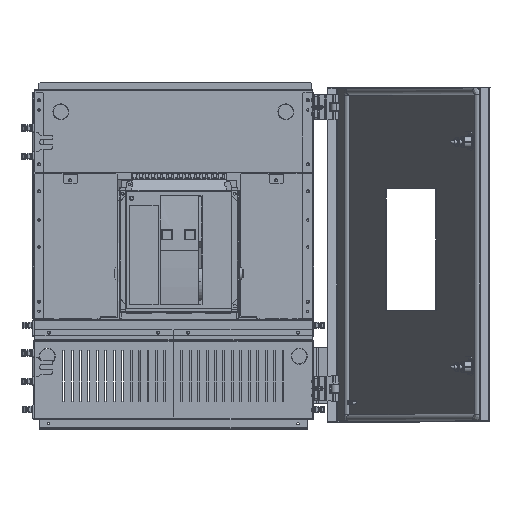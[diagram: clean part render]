
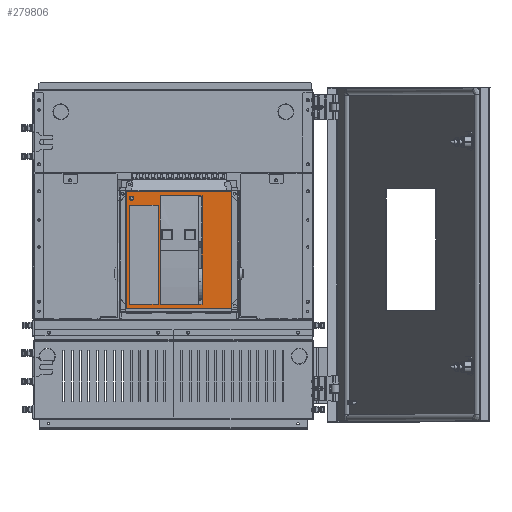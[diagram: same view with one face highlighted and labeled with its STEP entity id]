
A CAD part, top view. The second image highlights one B-rep face of the part: STEP entity #279806.
In plain terms, the highlighted planar face has unit normal (0, 0, 1).
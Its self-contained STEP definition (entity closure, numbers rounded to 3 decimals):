
#276861=CARTESIAN_POINT(' ',(139.5,209.005,-6.56));
#276862=VERTEX_POINT(' ',#276861);
#276936=CARTESIAN_POINT(' ',(139.5,15.505,-6.56));
#276937=VERTEX_POINT(' ',#276936);
#276951=CARTESIAN_POINT(' ',(139.5,15.505,-6.56));
#276956=DIRECTION(' ',(0.,1.,0.));
#276961=VECTOR(' ',#276956,1.);
#276966=LINE('',#276951,#276961);
#276971=CARTESIAN_POINT(' ',(139.5,16.529,-6.56));
#276972=VERTEX_POINT(' ',#276971);
#276976=EDGE_CURVE(' ',#276937,#276972,#276966,.T.);
#277061=CARTESIAN_POINT(' ',(71.9,209.005,-6.56));
#277066=DIRECTION(' ',(1.,0.,0.));
#277071=VECTOR(' ',#277066,1.);
#277076=LINE('',#277061,#277071);
#277081=CARTESIAN_POINT(' ',(71.9,209.005,-6.56));
#277082=VERTEX_POINT(' ',#277081);
#277086=EDGE_CURVE(' ',#277082,#276862,#277076,.T.);
#277181=CARTESIAN_POINT(' ',(71.9,15.505,-6.56));
#277186=DIRECTION(' ',(0.,1.,0.));
#277191=VECTOR(' ',#277186,1.);
#277196=LINE('',#277181,#277191);
#277201=CARTESIAN_POINT(' ',(71.9,15.505,-6.56));
#277202=VERTEX_POINT(' ',#277201);
#277206=EDGE_CURVE(' ',#277202,#277082,#277196,.T.);
#278276=CARTESIAN_POINT(' ',(139.5,15.505,-6.56));
#278281=DIRECTION(' ',(-1.,0.,0.));
#278286=VECTOR(' ',#278281,1.);
#278291=LINE('',#278276,#278286);
#278296=EDGE_CURVE(' ',#276937,#277202,#278291,.T.);
#279226=CARTESIAN_POINT(' ',(146.5,209.005,-6.56));
#279227=VERTEX_POINT(' ',#279226);
#279241=CARTESIAN_POINT(' ',(139.5,209.005,-6.56));
#279246=DIRECTION(' ',(1.,0.,0.));
#279251=VECTOR(' ',#279246,1.);
#279256=LINE('',#279241,#279251);
#279261=EDGE_CURVE(' ',#276862,#279227,#279256,.T.);
#279291=DIRECTION(' ',(0.,0.,1.));
#279296=CARTESIAN_POINT(' ',(11.619,8.623,-6.56));
#279301=DIRECTION(' ',(1.,0.,-0.));
#279306=AXIS2_PLACEMENT_3D(' ',#279296,#279291,#279301);
#279311=PLANE('NONE',#279306);
#279316=CARTESIAN_POINT(' ',(198.381,8.623,-6.56));
#279321=DIRECTION(' ',(0.,1.,0.));
#279326=VECTOR(' ',#279321,1.);
#279331=LINE('',#279316,#279326);
#279336=CARTESIAN_POINT(' ',(198.381,8.623,-6.56));
#279337=VERTEX_POINT(' ',#279336);
#279341=CARTESIAN_POINT(' ',(198.381,217.386,-6.56));
#279342=VERTEX_POINT(' ',#279341);
#279346=EDGE_CURVE(' ',#279337,#279342,#279331,.T.);
#279351=ORIENTED_EDGE(' ',*,*,#279346,.T.);
#279356=CARTESIAN_POINT(' ',(198.381,217.386,-6.56));
#279361=DIRECTION(' ',(-1.,0.,0.));
#279366=VECTOR(' ',#279361,1.);
#279371=LINE('',#279356,#279366);
#279376=CARTESIAN_POINT(' ',(11.619,217.386,-6.56));
#279377=VERTEX_POINT(' ',#279376);
#279381=EDGE_CURVE(' ',#279342,#279377,#279371,.T.);
#279386=ORIENTED_EDGE(' ',*,*,#279381,.T.);
#279391=CARTESIAN_POINT(' ',(11.619,217.386,-6.56));
#279396=DIRECTION(' ',(0.,-1.,0.));
#279401=VECTOR(' ',#279396,1.);
#279406=LINE('',#279391,#279401);
#279411=CARTESIAN_POINT(' ',(11.619,8.623,-6.56));
#279412=VERTEX_POINT(' ',#279411);
#279416=EDGE_CURVE(' ',#279377,#279412,#279406,.T.);
#279421=ORIENTED_EDGE(' ',*,*,#279416,.T.);
#279426=CARTESIAN_POINT(' ',(11.619,8.623,-6.56));
#279431=DIRECTION(' ',(1.,0.,0.));
#279436=VECTOR(' ',#279431,1.);
#279441=LINE('',#279426,#279436);
#279446=EDGE_CURVE(' ',#279412,#279337,#279441,.T.);
#279451=ORIENTED_EDGE(' ',*,*,#279446,.T.);
#279456=EDGE_LOOP(' ',(#279351,#279386,#279421,#279451));
#279461=FACE_OUTER_BOUND(' ',#279456,.T.);
#279466=ORIENTED_EDGE(' ',*,*,#279261,.T.);
#279471=CARTESIAN_POINT(' ',(146.5,209.005,-6.56));
#279476=DIRECTION(' ',(0.,-1.,0.));
#279481=VECTOR(' ',#279476,1.);
#279486=LINE('',#279471,#279481);
#279491=CARTESIAN_POINT(' ',(146.5,16.529,-6.56));
#279492=VERTEX_POINT(' ',#279491);
#279496=EDGE_CURVE(' ',#279227,#279492,#279486,.T.);
#279501=ORIENTED_EDGE(' ',*,*,#279496,.T.);
#279506=CARTESIAN_POINT(' ',(146.5,16.529,-6.56));
#279511=DIRECTION(' ',(-1.,0.,0.));
#279516=VECTOR(' ',#279511,1.);
#279521=LINE('',#279506,#279516);
#279526=EDGE_CURVE(' ',#279492,#276972,#279521,.T.);
#279531=ORIENTED_EDGE(' ',*,*,#279526,.T.);
#279536=ORIENTED_EDGE(' ',*,*,#276976,.F.);
#279541=ORIENTED_EDGE(' ',*,*,#278296,.T.);
#279546=ORIENTED_EDGE(' ',*,*,#277206,.T.);
#279551=ORIENTED_EDGE(' ',*,*,#277086,.T.);
#279556=EDGE_LOOP(' ',(#279466,#279501,#279531,#279536,#279541,#279546,#279551));
#279561=FACE_BOUND(' ',#279556,.T.);
#279566=CARTESIAN_POINT(' ',(68.5,16.505,-6.56));
#279571=DIRECTION(' ',(-1.,0.,0.));
#279576=VECTOR(' ',#279571,1.);
#279581=LINE('',#279566,#279576);
#279586=CARTESIAN_POINT(' ',(68.5,16.505,-6.56));
#279587=VERTEX_POINT(' ',#279586);
#279591=CARTESIAN_POINT(' ',(17.5,16.505,-6.56));
#279592=VERTEX_POINT(' ',#279591);
#279596=EDGE_CURVE(' ',#279587,#279592,#279581,.T.);
#279601=ORIENTED_EDGE(' ',*,*,#279596,.T.);
#279606=CARTESIAN_POINT(' ',(17.5,16.505,-6.56));
#279611=DIRECTION(' ',(0.,1.,0.));
#279616=VECTOR(' ',#279611,1.);
#279621=LINE('',#279606,#279616);
#279626=CARTESIAN_POINT(' ',(17.5,192.505,-6.56));
#279627=VERTEX_POINT(' ',#279626);
#279631=EDGE_CURVE(' ',#279592,#279627,#279621,.T.);
#279636=ORIENTED_EDGE(' ',*,*,#279631,.T.);
#279641=CARTESIAN_POINT(' ',(17.5,192.505,-6.56));
#279646=DIRECTION(' ',(1.,0.,0.));
#279651=VECTOR(' ',#279646,1.);
#279656=LINE('',#279641,#279651);
#279661=CARTESIAN_POINT(' ',(68.5,192.505,-6.56));
#279662=VERTEX_POINT(' ',#279661);
#279666=EDGE_CURVE(' ',#279627,#279662,#279656,.T.);
#279671=ORIENTED_EDGE(' ',*,*,#279666,.T.);
#279676=CARTESIAN_POINT(' ',(68.5,192.505,-6.56));
#279681=DIRECTION(' ',(0.,-1.,0.));
#279686=VECTOR(' ',#279681,1.);
#279691=LINE('',#279676,#279686);
#279696=EDGE_CURVE(' ',#279662,#279587,#279691,.T.);
#279701=ORIENTED_EDGE(' ',*,*,#279696,.T.);
#279706=EDGE_LOOP(' ',(#279601,#279636,#279671,#279701));
#279711=FACE_BOUND(' ',#279706,.T.);
#279716=CARTESIAN_POINT(' ',(21.3,204.505,-6.56));
#279721=DIRECTION(' ',(0.,0.,-1.));
#279726=DIRECTION(' ',(1.,0.,0.));
#279731=AXIS2_PLACEMENT_3D(' ',#279716,#279721,#279726);
#279736=CIRCLE('',#279731,3.873);
#279741=CARTESIAN_POINT(' ',(25.173,204.505,-6.56));
#279742=VERTEX_POINT(' ',#279741);
#279746=CARTESIAN_POINT(' ',(17.427,204.505,-6.56));
#279747=VERTEX_POINT(' ',#279746);
#279751=EDGE_CURVE(' ',#279742,#279747,#279736,.T.);
#279756=ORIENTED_EDGE(' ',*,*,#279751,.T.);
#279761=CARTESIAN_POINT(' ',(21.3,204.505,-6.56));
#279766=DIRECTION(' ',(0.,0.,-1.));
#279771=DIRECTION(' ',(-1.,0.,0.));
#279776=AXIS2_PLACEMENT_3D(' ',#279761,#279766,#279771);
#279781=CIRCLE('',#279776,3.873);
#279786=EDGE_CURVE(' ',#279747,#279742,#279781,.T.);
#279791=ORIENTED_EDGE(' ',*,*,#279786,.T.);
#279796=EDGE_LOOP(' ',(#279756,#279791));
#279801=FACE_BOUND(' ',#279796,.T.);
#279806=ADVANCED_FACE('NONE',(#279461,#279561,#279711,#279801),#279311,.T.);
